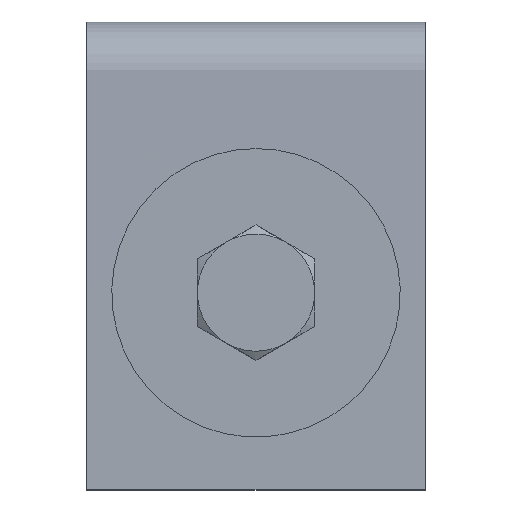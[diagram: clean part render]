
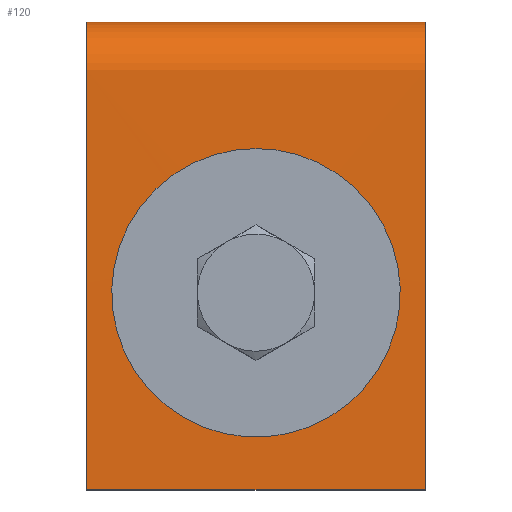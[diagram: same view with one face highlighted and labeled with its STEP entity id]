
A CAD part, top view. The second image highlights one B-rep face of the part: STEP entity #120.
In plain terms, the highlighted free-form (B-spline) face has degree [1, 2] with [2, 7] control points.
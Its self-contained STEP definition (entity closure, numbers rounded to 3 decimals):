
#61=FACE_BOUND('',#245,.T.);
#120=ADVANCED_FACE('',(#180,#61),#963,.T.);
#180=FACE_OUTER_BOUND('',#244,.T.);
#244=EDGE_LOOP('',(#530,#531,#532,#533));
#245=EDGE_LOOP('',(#534));
#530=ORIENTED_EDGE('',*,*,#685,.T.);
#531=ORIENTED_EDGE('',*,*,#676,.F.);
#532=ORIENTED_EDGE('',*,*,#675,.F.);
#533=ORIENTED_EDGE('',*,*,#674,.T.);
#534=ORIENTED_EDGE('',*,*,#687,.F.);
#674=EDGE_CURVE('',#927,#931,#833,.T.);
#675=EDGE_CURVE('',#927,#928,#785,.T.);
#676=EDGE_CURVE('',#928,#934,#834,.T.);
#685=EDGE_CURVE('',#931,#934,#792,.T.);
#687=EDGE_CURVE('',#936,#936,#838,.T.);
#785=B_SPLINE_CURVE_WITH_KNOTS('',1,(#8716,#8717),.UNSPECIFIED.,.F.,.F.,
(2,2),(0.,42.),.UNSPECIFIED.);
#792=B_SPLINE_CURVE_WITH_KNOTS('',1,(#8751,#8752),.UNSPECIFIED.,.F.,.F.,
(2,2),(0.,42.),.UNSPECIFIED.);
#833=(
BOUNDED_CURVE()
B_SPLINE_CURVE(2,(#8709,#8710,#8711,#8712,#8713,#8714,#8715),
 .UNSPECIFIED.,.F.,.F.)
B_SPLINE_CURVE_WITH_KNOTS((3,2,2,3),(-141.142,-128.142,
-125.,-74.),.UNSPECIFIED.)
CURVE()
GEOMETRIC_REPRESENTATION_ITEM()
RATIONAL_B_SPLINE_CURVE((1.,1.,1.,0.707,1.,1.,1.))
REPRESENTATION_ITEM('')
);
#834=(
BOUNDED_CURVE()
B_SPLINE_CURVE(2,(#8718,#8719,#8720,#8721,#8722,#8723,#8724),
 .UNSPECIFIED.,.F.,.F.)
B_SPLINE_CURVE_WITH_KNOTS((3,2,2,3),(-141.142,-128.142,
-125.,-74.),.UNSPECIFIED.)
CURVE()
GEOMETRIC_REPRESENTATION_ITEM()
RATIONAL_B_SPLINE_CURVE((1.,1.,1.,0.707,1.,1.,1.))
REPRESENTATION_ITEM('')
);
#838=(
BOUNDED_CURVE()
B_SPLINE_CURVE(2,(#8762,#8763,#8764,#8765,#8766,#8767,#8768,#8769,#8770),
 .UNSPECIFIED.,.T.,.F.)
B_SPLINE_CURVE_WITH_KNOTS((3,2,2,2,3),(-37.695,-28.272,
-18.848,-9.424,0.),.UNSPECIFIED.)
CURVE()
GEOMETRIC_REPRESENTATION_ITEM()
RATIONAL_B_SPLINE_CURVE((1.,0.707,1.,0.707,1.,0.707,
1.,0.707,1.))
REPRESENTATION_ITEM('')
);
#927=VERTEX_POINT('',#8699);
#928=VERTEX_POINT('',#8700);
#931=VERTEX_POINT('',#8703);
#934=VERTEX_POINT('',#8706);
#936=VERTEX_POINT('',#8708);
#963=(
BOUNDED_SURFACE()
B_SPLINE_SURFACE(1,2,((#8684,#8685,#8686,#8687,#8688,#8689,#8690),(#8691,
#8692,#8693,#8694,#8695,#8696,#8697)),.UNSPECIFIED.,.F.,.F.,.F.)
B_SPLINE_SURFACE_WITH_KNOTS((2,2),(3,2,2,3),(0.,42.),(74.,125.,128.142,
141.142),.UNSPECIFIED.)
GEOMETRIC_REPRESENTATION_ITEM()
RATIONAL_B_SPLINE_SURFACE(((1.,1.,1.,0.707,1.,1.,1.),(1.,1.,
1.,0.707,1.,1.,1.)))
REPRESENTATION_ITEM('')
SURFACE()
);
#8684=CARTESIAN_POINT('',(-21.,-24.4,16.));
#8685=CARTESIAN_POINT('',(-21.,1.1,16.));
#8686=CARTESIAN_POINT('',(-21.,26.6,16.));
#8687=CARTESIAN_POINT('',(-21.,33.6,16.));
#8688=CARTESIAN_POINT('',(-21.,33.6,9.));
#8689=CARTESIAN_POINT('',(-21.,33.6,2.5));
#8690=CARTESIAN_POINT('',(-21.,33.6,-4.));
#8691=CARTESIAN_POINT('',(21.,-24.4,16.));
#8692=CARTESIAN_POINT('',(21.,1.1,16.));
#8693=CARTESIAN_POINT('',(21.,26.6,16.));
#8694=CARTESIAN_POINT('',(21.,33.6,16.));
#8695=CARTESIAN_POINT('',(21.,33.6,9.));
#8696=CARTESIAN_POINT('',(21.,33.6,2.5));
#8697=CARTESIAN_POINT('',(21.,33.6,-4.));
#8699=CARTESIAN_POINT('',(-21.,33.6,-4.));
#8700=CARTESIAN_POINT('',(21.,33.6,-4.));
#8703=CARTESIAN_POINT('',(-21.,-24.4,16.));
#8706=CARTESIAN_POINT('',(21.,-24.4,16.));
#8708=CARTESIAN_POINT('',(6.,0.,16.));
#8709=CARTESIAN_POINT('',(-21.,33.6,-4.));
#8710=CARTESIAN_POINT('',(-21.,33.6,2.5));
#8711=CARTESIAN_POINT('',(-21.,33.6,9.));
#8712=CARTESIAN_POINT('',(-21.,33.6,16.));
#8713=CARTESIAN_POINT('',(-21.,26.6,16.));
#8714=CARTESIAN_POINT('',(-21.,1.1,16.));
#8715=CARTESIAN_POINT('',(-21.,-24.4,16.));
#8716=CARTESIAN_POINT('',(-21.,33.6,-4.));
#8717=CARTESIAN_POINT('',(21.,33.6,-4.));
#8718=CARTESIAN_POINT('',(21.,33.6,-4.));
#8719=CARTESIAN_POINT('',(21.,33.6,2.5));
#8720=CARTESIAN_POINT('',(21.,33.6,9.));
#8721=CARTESIAN_POINT('',(21.,33.6,16.));
#8722=CARTESIAN_POINT('',(21.,26.6,16.));
#8723=CARTESIAN_POINT('',(21.,1.1,16.));
#8724=CARTESIAN_POINT('',(21.,-24.4,16.));
#8751=CARTESIAN_POINT('',(-21.,-24.4,16.));
#8752=CARTESIAN_POINT('',(21.,-24.4,16.));
#8762=CARTESIAN_POINT('',(6.,0.,16.));
#8763=CARTESIAN_POINT('',(6.,6.,16.));
#8764=CARTESIAN_POINT('',(0.,6.,16.));
#8765=CARTESIAN_POINT('',(-6.,6.,16.));
#8766=CARTESIAN_POINT('',(-6.,0.,16.));
#8767=CARTESIAN_POINT('',(-6.,-6.,16.));
#8768=CARTESIAN_POINT('',(0.,-6.,16.));
#8769=CARTESIAN_POINT('',(6.,-6.,16.));
#8770=CARTESIAN_POINT('',(6.,0.,16.));
